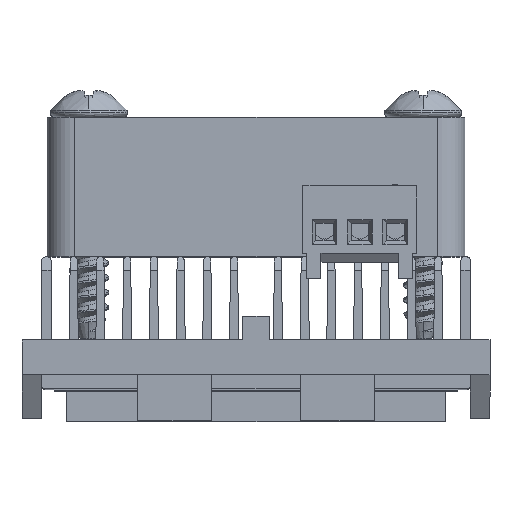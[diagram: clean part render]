
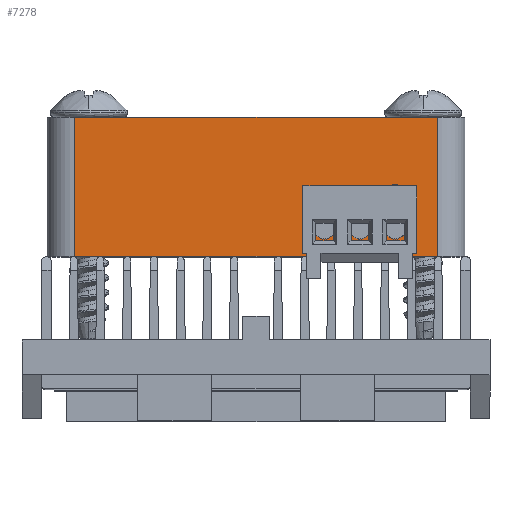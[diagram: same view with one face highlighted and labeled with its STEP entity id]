
A CAD part, top view. The second image highlights one B-rep face of the part: STEP entity #7278.
In plain terms, the highlighted planar face has unit normal (0, 0, 1).
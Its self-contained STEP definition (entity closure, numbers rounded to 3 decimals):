
#152 = ORIENTED_EDGE ( 'NONE', *, *, #18804, .F. ) ;
#1016 = ORIENTED_EDGE ( 'NONE', *, *, #10931, .F. ) ;
#1246 = DIRECTION ( 'NONE',  ( 1., 0., 0. ) ) ;
#2094 = DIRECTION ( 'NONE',  ( 0., 0., -1. ) ) ;
#2419 = ORIENTED_EDGE ( 'NONE', *, *, #3678, .T. ) ;
#2956 = EDGE_LOOP ( 'NONE', ( #2419, #9095, #1016, #37246 ) ) ;
#3129 = CARTESIAN_POINT ( 'NONE',  ( 4.92, 11.5, 15. ) ) ;
#3678 = EDGE_CURVE ( 'NONE', #13087, #14007, #7816, .T. ) ;
#5391 = EDGE_CURVE ( 'NONE', #33399, #13087, #46905, .T. ) ;
#5885 = DIRECTION ( 'NONE',  ( 0., -1., 0. ) ) ;
#6202 = FACE_BOUND ( 'NONE', #31847, .T. ) ;
#6694 = FACE_BOUND ( 'NONE', #36541, .T. ) ;
#7099 = VERTEX_POINT ( 'NONE', #47052 ) ;
#7192 = CIRCLE ( 'NONE', #11882, 0.76 ) ;
#7254 = AXIS2_PLACEMENT_3D ( 'NONE', #3129, #7776, #26506 ) ;
#7278 = ADVANCED_FACE ( 'NONE', ( #36230, #46755, #6694, #6202 ), #28880, .F. ) ;
#7310 = DIRECTION ( 'NONE',  ( 0., 0., 1. ) ) ;
#7776 = DIRECTION ( 'NONE',  ( 0., 0., 1. ) ) ;
#7816 = LINE ( 'NONE', #29737, #40302 ) ;
#8525 = VERTEX_POINT ( 'NONE', #12127 ) ;
#9095 = ORIENTED_EDGE ( 'NONE', *, *, #26187, .F. ) ;
#9266 = LINE ( 'NONE', #34651, #25521 ) ;
#9828 = CARTESIAN_POINT ( 'NONE',  ( 4.16, 11.5, 15. ) ) ;
#10931 = EDGE_CURVE ( 'NONE', #33399, #25496, #9266, .T. ) ;
#11819 = ORIENTED_EDGE ( 'NONE', *, *, #14565, .F. ) ;
#11834 = CIRCLE ( 'NONE', #36761, 0.76 ) ;
#11882 = AXIS2_PLACEMENT_3D ( 'NONE', #20145, #31103, #27909 ) ;
#11971 = VERTEX_POINT ( 'NONE', #26279 ) ;
#12030 = CARTESIAN_POINT ( 'NONE',  ( 13., 19.5, 15. ) ) ;
#12127 = CARTESIAN_POINT ( 'NONE',  ( 6.7, 11.5, 15. ) ) ;
#13087 = VERTEX_POINT ( 'NONE', #43085 ) ;
#13273 = ORIENTED_EDGE ( 'NONE', *, *, #35353, .F. ) ;
#14007 = VERTEX_POINT ( 'NONE', #14456 ) ;
#14456 = CARTESIAN_POINT ( 'NONE',  ( 13., 9.5, 15. ) ) ;
#14565 = EDGE_CURVE ( 'NONE', #33230, #8525, #31991, .T. ) ;
#14734 = CARTESIAN_POINT ( 'NONE',  ( 10., 11.5, 15. ) ) ;
#17055 = DIRECTION ( 'NONE',  ( -1., 0., 0. ) ) ;
#17556 = DIRECTION ( 'NONE',  ( 0., 0., 1. ) ) ;
#18120 = AXIS2_PLACEMENT_3D ( 'NONE', #40509, #7310, #33659 ) ;
#18351 = EDGE_LOOP ( 'NONE', ( #20393, #32604 ) ) ;
#18804 = EDGE_CURVE ( 'NONE', #45067, #34212, #7192, .T. ) ;
#18934 = DIRECTION ( 'NONE',  ( -1., 0., 0. ) ) ;
#19941 = ORIENTED_EDGE ( 'NONE', *, *, #43404, .F. ) ;
#20068 = CARTESIAN_POINT ( 'NONE',  ( -13., 19.5, 15. ) ) ;
#20145 = CARTESIAN_POINT ( 'NONE',  ( 4.92, 11.5, 15. ) ) ;
#20393 = ORIENTED_EDGE ( 'NONE', *, *, #29655, .F. ) ;
#20404 = CIRCLE ( 'NONE', #35959, 0.76 ) ;
#20770 = CARTESIAN_POINT ( 'NONE',  ( 13., 19.5, 15. ) ) ;
#21292 = CIRCLE ( 'NONE', #7254, 0.76 ) ;
#22707 = DIRECTION ( 'NONE',  ( 1., 0., 0. ) ) ;
#23252 = LINE ( 'NONE', #12030, #40832 ) ;
#23623 = CARTESIAN_POINT ( 'NONE',  ( -13., 19.5, 15. ) ) ;
#24502 = EDGE_CURVE ( 'NONE', #11971, #7099, #11834, .T. ) ;
#24980 = DIRECTION ( 'NONE',  ( -1., 0., 0. ) ) ;
#25496 = VERTEX_POINT ( 'NONE', #20770 ) ;
#25521 = VECTOR ( 'NONE', #1246, 1000. ) ;
#26187 = EDGE_CURVE ( 'NONE', #25496, #14007, #23252, .T. ) ;
#26279 = CARTESIAN_POINT ( 'NONE',  ( 10.76, 11.5, 15. ) ) ;
#26506 = DIRECTION ( 'NONE',  ( -1., 0., 0. ) ) ;
#27909 = DIRECTION ( 'NONE',  ( -1., 0., 0. ) ) ;
#28880 = PLANE ( 'NONE',  #40841 ) ;
#29147 = DIRECTION ( 'NONE',  ( -1., 0., 0. ) ) ;
#29655 = EDGE_CURVE ( 'NONE', #7099, #11971, #20404, .T. ) ;
#29737 = CARTESIAN_POINT ( 'NONE',  ( -13., 9.5, 15. ) ) ;
#31103 = DIRECTION ( 'NONE',  ( 0., 0., 1. ) ) ;
#31229 = AXIS2_PLACEMENT_3D ( 'NONE', #42711, #17556, #17055 ) ;
#31847 = EDGE_LOOP ( 'NONE', ( #152, #19941 ) ) ;
#31991 = CIRCLE ( 'NONE', #31229, 0.76 ) ;
#32604 = ORIENTED_EDGE ( 'NONE', *, *, #24502, .F. ) ;
#33230 = VERTEX_POINT ( 'NONE', #39033 ) ;
#33399 = VERTEX_POINT ( 'NONE', #23623 ) ;
#33659 = DIRECTION ( 'NONE',  ( -1., 0., 0. ) ) ;
#33786 = VECTOR ( 'NONE', #5885, 1000. ) ;
#34212 = VERTEX_POINT ( 'NONE', #36394 ) ;
#34651 = CARTESIAN_POINT ( 'NONE',  ( -13., 19.5, 15. ) ) ;
#35353 = EDGE_CURVE ( 'NONE', #8525, #33230, #37594, .T. ) ;
#35764 = CARTESIAN_POINT ( 'NONE',  ( 10., 11.5, 15. ) ) ;
#35959 = AXIS2_PLACEMENT_3D ( 'NONE', #35764, #47519, #29147 ) ;
#36230 = FACE_OUTER_BOUND ( 'NONE', #2956, .T. ) ;
#36394 = CARTESIAN_POINT ( 'NONE',  ( 5.68, 11.5, 15. ) ) ;
#36541 = EDGE_LOOP ( 'NONE', ( #13273, #11819 ) ) ;
#36761 = AXIS2_PLACEMENT_3D ( 'NONE', #14734, #36989, #18934 ) ;
#36989 = DIRECTION ( 'NONE',  ( 0., 0., 1. ) ) ;
#37246 = ORIENTED_EDGE ( 'NONE', *, *, #5391, .T. ) ;
#37594 = CIRCLE ( 'NONE', #18120, 0.76 ) ;
#38144 = DIRECTION ( 'NONE',  ( 0., -1., 0. ) ) ;
#39033 = CARTESIAN_POINT ( 'NONE',  ( 8.22, 11.5, 15. ) ) ;
#40302 = VECTOR ( 'NONE', #22707, 1000. ) ;
#40509 = CARTESIAN_POINT ( 'NONE',  ( 7.46, 11.5, 15. ) ) ;
#40832 = VECTOR ( 'NONE', #38144, 1000. ) ;
#40841 = AXIS2_PLACEMENT_3D ( 'NONE', #43565, #2094, #24980 ) ;
#42711 = CARTESIAN_POINT ( 'NONE',  ( 7.46, 11.5, 15. ) ) ;
#43085 = CARTESIAN_POINT ( 'NONE',  ( -13., 9.5, 15. ) ) ;
#43404 = EDGE_CURVE ( 'NONE', #34212, #45067, #21292, .T. ) ;
#43565 = CARTESIAN_POINT ( 'NONE',  ( -13., 19.5, 15. ) ) ;
#45067 = VERTEX_POINT ( 'NONE', #9828 ) ;
#46755 = FACE_BOUND ( 'NONE', #18351, .T. ) ;
#46905 = LINE ( 'NONE', #20068, #33786 ) ;
#47052 = CARTESIAN_POINT ( 'NONE',  ( 9.24, 11.5, 15. ) ) ;
#47519 = DIRECTION ( 'NONE',  ( 0., 0., 1. ) ) ;
